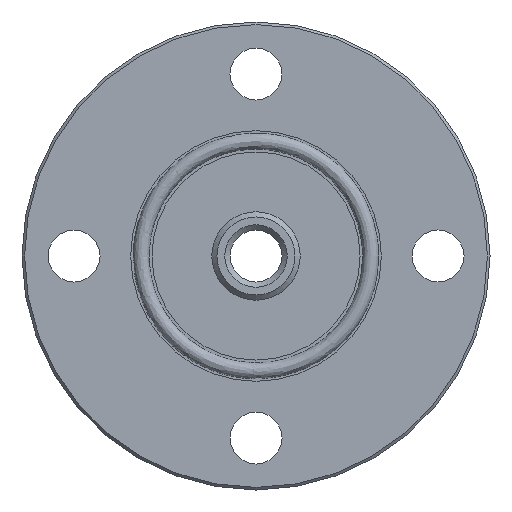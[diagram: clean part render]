
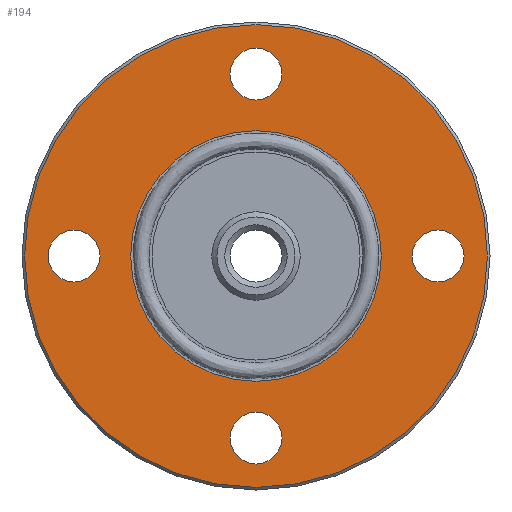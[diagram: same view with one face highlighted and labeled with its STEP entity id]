
A CAD part, left-side view. The second image highlights one B-rep face of the part: STEP entity #194.
In plain terms, the highlighted planar face has unit normal (-1, 0, 0).
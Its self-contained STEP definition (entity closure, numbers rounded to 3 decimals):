
#121=FACE_BOUND('',#328,.T.);
#122=FACE_BOUND('',#329,.T.);
#123=FACE_BOUND('',#330,.T.);
#124=FACE_BOUND('',#331,.T.);
#125=FACE_BOUND('',#332,.T.);
#126=FACE_BOUND('',#333,.T.);
#194=ADVANCED_FACE('',(#121,#122,#123,#124,#125,#126),#255,.T.);
#255=PLANE('',#1384);
#328=EDGE_LOOP('',(#501));
#329=EDGE_LOOP('',(#502));
#330=EDGE_LOOP('',(#503));
#331=EDGE_LOOP('',(#504));
#332=EDGE_LOOP('',(#505));
#333=EDGE_LOOP('',(#506));
#432=CIRCLE('',#1375,24.1);
#434=CIRCLE('',#1378,44.5);
#435=CIRCLE('',#1380,5.);
#436=CIRCLE('',#1381,5.);
#437=CIRCLE('',#1382,5.);
#438=CIRCLE('',#1383,5.);
#501=ORIENTED_EDGE('',*,*,#825,.T.);
#502=ORIENTED_EDGE('',*,*,#823,.F.);
#503=ORIENTED_EDGE('',*,*,#826,.F.);
#504=ORIENTED_EDGE('',*,*,#827,.F.);
#505=ORIENTED_EDGE('',*,*,#828,.F.);
#506=ORIENTED_EDGE('',*,*,#829,.F.);
#729=VERTEX_POINT('',#4886);
#731=VERTEX_POINT('',#4891);
#732=VERTEX_POINT('',#4894);
#733=VERTEX_POINT('',#4896);
#734=VERTEX_POINT('',#4898);
#735=VERTEX_POINT('',#4900);
#823=EDGE_CURVE('',#729,#729,#432,.T.);
#825=EDGE_CURVE('',#731,#731,#434,.T.);
#826=EDGE_CURVE('',#732,#732,#435,.T.);
#827=EDGE_CURVE('',#733,#733,#436,.T.);
#828=EDGE_CURVE('',#734,#734,#437,.T.);
#829=EDGE_CURVE('',#735,#735,#438,.T.);
#1375=AXIS2_PLACEMENT_3D('',#4885,#1511,#1512);
#1378=AXIS2_PLACEMENT_3D('',#4890,#1517,#1518);
#1380=AXIS2_PLACEMENT_3D('',#4893,#1521,#1522);
#1381=AXIS2_PLACEMENT_3D('',#4895,#1523,#1524);
#1382=AXIS2_PLACEMENT_3D('',#4897,#1525,#1526);
#1383=AXIS2_PLACEMENT_3D('',#4899,#1527,#1528);
#1384=AXIS2_PLACEMENT_3D('',#4901,#1529,#1530);
#1511=DIRECTION('',(-1.,0.,0.));
#1512=DIRECTION('',(0.,-1.,0.));
#1517=DIRECTION('',(-1.,0.,0.));
#1518=DIRECTION('',(0.,-1.,0.));
#1521=DIRECTION('',(-1.,0.,0.));
#1522=DIRECTION('',(0.,0.,-1.));
#1523=DIRECTION('',(-1.,0.,0.));
#1524=DIRECTION('',(0.,1.,0.));
#1525=DIRECTION('',(-1.,0.,0.));
#1526=DIRECTION('',(0.,0.,1.));
#1527=DIRECTION('',(-1.,0.,0.));
#1528=DIRECTION('',(0.,-1.,0.));
#1529=DIRECTION('',(-1.,0.,0.));
#1530=DIRECTION('',(0.,-1.,0.));
#4885=CARTESIAN_POINT('',(0.,0.,0.));
#4886=CARTESIAN_POINT('',(0.,-24.1,0.));
#4890=CARTESIAN_POINT('',(0.,0.,0.));
#4891=CARTESIAN_POINT('',(0.,-44.5,0.));
#4893=CARTESIAN_POINT('',(0.,0.,35.));
#4894=CARTESIAN_POINT('',(0.,0.,30.));
#4895=CARTESIAN_POINT('',(0.,-35.,0.));
#4896=CARTESIAN_POINT('',(0.,-30.,0.));
#4897=CARTESIAN_POINT('',(0.,0.,-35.));
#4898=CARTESIAN_POINT('',(0.,0.,-30.));
#4899=CARTESIAN_POINT('',(0.,35.,0.));
#4900=CARTESIAN_POINT('',(0.,30.,0.));
#4901=CARTESIAN_POINT('',(0.,0.,0.));
